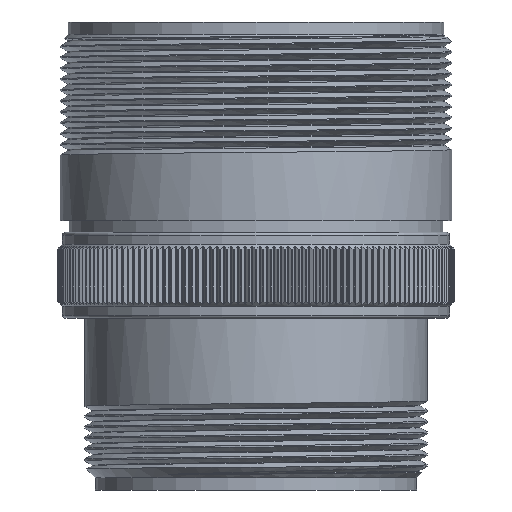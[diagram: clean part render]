
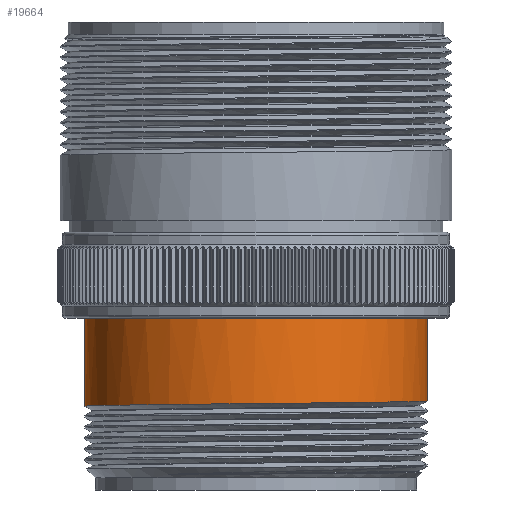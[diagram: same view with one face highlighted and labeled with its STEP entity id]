
A CAD part, front view. The second image highlights one B-rep face of the part: STEP entity #19664.
In plain terms, the highlighted cylindrical face has radius 22.18 mm (diameter 44.36 mm), a partial arc.
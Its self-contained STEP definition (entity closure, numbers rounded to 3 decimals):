
#1090 = CIRCLE ( 'NONE', #24438, 22.18 ) ;
#1309 = CARTESIAN_POINT ( 'NONE',  ( -22.18, 0., -27.22 ) ) ;
#1767 = CARTESIAN_POINT ( 'NONE',  ( 22.18, 0., -49.021 ) ) ;
#3054 = VERTEX_POINT ( 'NONE', #61908 ) ;
#4908 = CARTESIAN_POINT ( 'NONE',  ( 22.18, 0., -49.021 ) ) ;
#5126 = EDGE_LOOP ( 'NONE', ( #76467, #61040, #42588, #52266 ) ) ;
#5817 = CARTESIAN_POINT ( 'NONE',  ( 0., 0., -38.33 ) ) ;
#7893 = CARTESIAN_POINT ( 'NONE',  ( -22.18, 0., -49.726 ) ) ;
#8490 = FACE_OUTER_BOUND ( 'NONE', #5126, .T. ) ;
#12835 = DIRECTION ( 'NONE',  ( 1., 0., 0. ) ) ;
#14324 = VERTEX_POINT ( 'NONE', #75888 ) ;
#15784 =( BOUNDED_CURVE ( )  B_SPLINE_CURVE ( 2, ( #7893, #22194, #70787, #29407, #77764, #36273, #84849, #43179, #1767 ),
 .UNSPECIFIED., .F., .T. ) 
 B_SPLINE_CURVE_WITH_KNOTS ( ( 3, 2, 2, 2, 3 ),
 ( 0.906, 0.917, 0.938, 0.958, 0.969 ),
 .UNSPECIFIED. ) 
 CURVE ( )  GEOMETRIC_REPRESENTATION_ITEM ( )  RATIONAL_B_SPLINE_CURVE ( ( 0.933, 0.933, 1., 0.866, 1., 0.866, 1., 0.933, 0.933 ) ) 
 REPRESENTATION_ITEM ( '' )  );
#19664 = ADVANCED_FACE ( 'NONE', ( #8490 ), #59321, .T. ) ;
#22194 = CARTESIAN_POINT ( 'NONE',  ( -22.18, -5.943, -49.663 ) ) ;
#22969 = LINE ( 'NONE', #1309, #41178 ) ;
#24438 = AXIS2_PLACEMENT_3D ( 'NONE', #5817, #54246, #12835 ) ;
#26075 = EDGE_CURVE ( 'NONE', #3054, #48570, #1090, .T. ) ;
#29407 = CARTESIAN_POINT ( 'NONE',  ( -12.806, -22.18, -49.491 ) ) ;
#35715 = EDGE_CURVE ( 'NONE', #14324, #3054, #22969, .T. ) ;
#36273 = CARTESIAN_POINT ( 'NONE',  ( 12.806, -22.18, -49.256 ) ) ;
#36551 = LINE ( 'NONE', #84853, #87556 ) ;
#41178 = VECTOR ( 'NONE', #77319, 1000. ) ;
#42588 = ORIENTED_EDGE ( 'NONE', *, *, #61906, .T. ) ;
#43179 = CARTESIAN_POINT ( 'NONE',  ( 22.18, -5.943, -49.084 ) ) ;
#48570 = VERTEX_POINT ( 'NONE', #61149 ) ;
#48760 = AXIS2_PLACEMENT_3D ( 'NONE', #50521, #57819, #64760 ) ;
#50521 = CARTESIAN_POINT ( 'NONE',  ( 0., 0., -27.22 ) ) ;
#51006 = EDGE_CURVE ( 'NONE', #14324, #62653, #15784, .T. ) ;
#52266 = ORIENTED_EDGE ( 'NONE', *, *, #26075, .F. ) ;
#54246 = DIRECTION ( 'NONE',  ( 0., 0., 1. ) ) ;
#57819 = DIRECTION ( 'NONE',  ( 0., 0., 1. ) ) ;
#59321 = CYLINDRICAL_SURFACE ( 'NONE', #48760, 22.18 ) ;
#61040 = ORIENTED_EDGE ( 'NONE', *, *, #51006, .T. ) ;
#61149 = CARTESIAN_POINT ( 'NONE',  ( 22.18, 0., -38.33 ) ) ;
#61906 = EDGE_CURVE ( 'NONE', #62653, #48570, #36551, .T. ) ;
#61908 = CARTESIAN_POINT ( 'NONE',  ( -22.18, 0., -38.33 ) ) ;
#62653 = VERTEX_POINT ( 'NONE', #4908 ) ;
#64760 = DIRECTION ( 'NONE',  ( 1., 0., 0. ) ) ;
#70787 = CARTESIAN_POINT ( 'NONE',  ( -19.208, -11.09, -49.609 ) ) ;
#70793 = DIRECTION ( 'NONE',  ( 0., 0., 1. ) ) ;
#75888 = CARTESIAN_POINT ( 'NONE',  ( -22.18, 0., -49.726 ) ) ;
#76467 = ORIENTED_EDGE ( 'NONE', *, *, #35715, .F. ) ;
#77319 = DIRECTION ( 'NONE',  ( 0., 0., 1. ) ) ;
#77764 = CARTESIAN_POINT ( 'NONE',  ( 0., -22.18, -49.374 ) ) ;
#84849 = CARTESIAN_POINT ( 'NONE',  ( 19.208, -11.09, -49.138 ) ) ;
#84853 = CARTESIAN_POINT ( 'NONE',  ( 22.18, 0., -27.22 ) ) ;
#87556 = VECTOR ( 'NONE', #70793, 1000. ) ;
